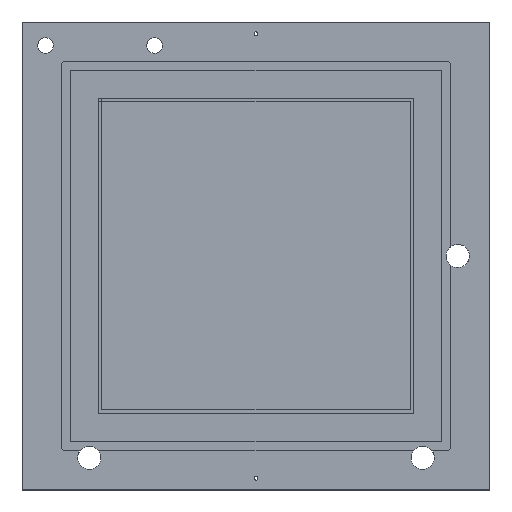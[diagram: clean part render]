
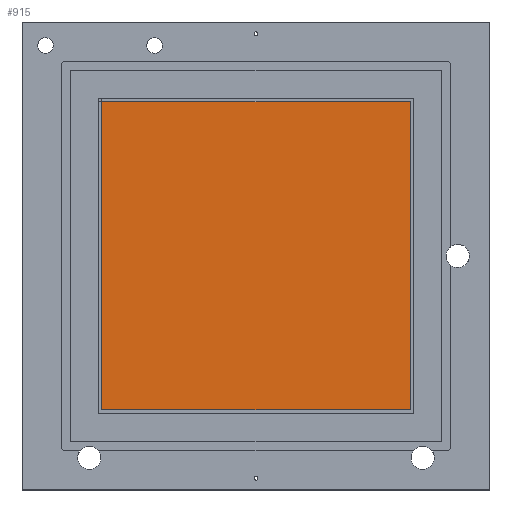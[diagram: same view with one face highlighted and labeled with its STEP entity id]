
A CAD part, top view. The second image highlights one B-rep face of the part: STEP entity #915.
In plain terms, the highlighted planar face has unit normal (0, 0, 1).
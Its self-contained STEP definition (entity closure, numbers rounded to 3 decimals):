
#817=CARTESIAN_POINT('Vertex',(-39.5,39.5,-0.745)) ;
#820=CARTESIAN_POINT('Line Origine',(0.,39.5,-0.745)) ;
#824=CARTESIAN_POINT('Vertex',(39.5,39.5,-0.745)) ;
#844=CARTESIAN_POINT('Line Origine',(39.5,0.,-0.745)) ;
#848=CARTESIAN_POINT('Vertex',(39.5,-39.5,-0.745)) ;
#868=CARTESIAN_POINT('Line Origine',(0.,-39.5,-0.745)) ;
#872=CARTESIAN_POINT('Vertex',(-39.5,-39.5,-0.745)) ;
#892=CARTESIAN_POINT('Line Origine',(-39.5,0.,-0.745)) ;
#904=CARTESIAN_POINT('Axis2P3D Location',(0.,0.,-0.745)) ;
#821=DIRECTION('Vector Direction',(-1.,0.,0.)) ;
#845=DIRECTION('Vector Direction',(0.,1.,0.)) ;
#869=DIRECTION('Vector Direction',(1.,0.,0.)) ;
#893=DIRECTION('Vector Direction',(0.,-1.,0.)) ;
#905=DIRECTION('Axis2P3D Direction',(0.,0.,-1.)) ;
#906=DIRECTION('Axis2P3D XDirection',(1.,0.,0.)) ;
#907=AXIS2_PLACEMENT_3D('Plane Axis2P3D',#904,#905,#906) ;
#910=ORIENTED_EDGE('',*,*,#874,.F.) ;
#911=ORIENTED_EDGE('',*,*,#850,.F.) ;
#912=ORIENTED_EDGE('',*,*,#826,.F.) ;
#913=ORIENTED_EDGE('',*,*,#896,.F.) ;
#822=VECTOR('Line Direction',#821,1.) ;
#846=VECTOR('Line Direction',#845,1.) ;
#870=VECTOR('Line Direction',#869,1.) ;
#894=VECTOR('Line Direction',#893,1.) ;
#915=ADVANCED_FACE('Corps principal',(#914),#908,.F.) ;
#826=EDGE_CURVE('',#818,#825,#823,.F.) ;
#850=EDGE_CURVE('',#825,#849,#847,.F.) ;
#874=EDGE_CURVE('',#849,#873,#871,.F.) ;
#896=EDGE_CURVE('',#873,#818,#895,.F.) ;
#909=EDGE_LOOP('',(#910,#911,#912,#913)) ;
#914=FACE_OUTER_BOUND('',#909,.T.) ;
#823=LINE('Line',#820,#822) ;
#847=LINE('Line',#844,#846) ;
#871=LINE('Line',#868,#870) ;
#895=LINE('Line',#892,#894) ;
#908=PLANE('Plane',#907) ;
#818=VERTEX_POINT('',#817) ;
#825=VERTEX_POINT('',#824) ;
#849=VERTEX_POINT('',#848) ;
#873=VERTEX_POINT('',#872) ;
